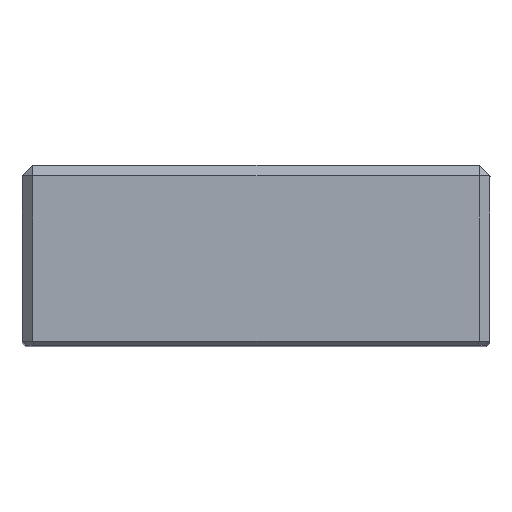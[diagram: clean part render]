
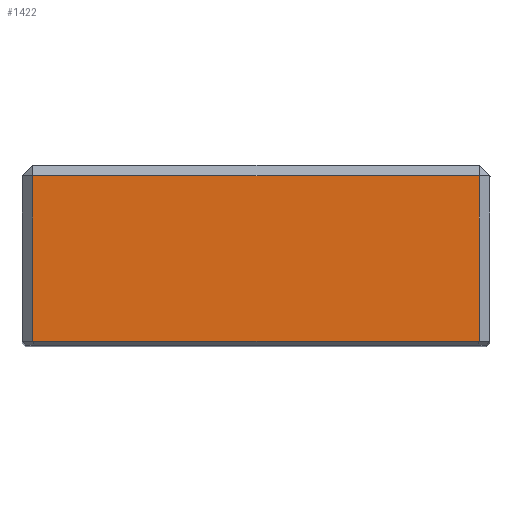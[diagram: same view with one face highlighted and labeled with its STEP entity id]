
A CAD part, top view. The second image highlights one B-rep face of the part: STEP entity #1422.
In plain terms, the highlighted planar face has unit normal (0, 0, 1).
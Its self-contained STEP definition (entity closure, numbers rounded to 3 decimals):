
#1395=AXIS2_PLACEMENT_3D('Plane Axis2P3D',#1392,#1393,#1394) ;
#605=CARTESIAN_POINT('Vertex',(-62.,-3.,0.)) ;
#608=CARTESIAN_POINT('Line Origine',(0.,-3.,0.)) ;
#612=CARTESIAN_POINT('Vertex',(62.,-3.,0.)) ;
#1392=CARTESIAN_POINT('Axis2P3D Location',(65.,0.,0.)) ;
#1397=CARTESIAN_POINT('Line Origine',(0.,-49.,0.)) ;
#1401=CARTESIAN_POINT('Vertex',(62.,-49.,0.)) ;
#1403=CARTESIAN_POINT('Vertex',(-62.,-49.,0.)) ;
#1406=CARTESIAN_POINT('Line Origine',(62.,-26.,0.)) ;
#1411=CARTESIAN_POINT('Line Origine',(-62.,-26.,0.)) ;
#609=DIRECTION('Vector Direction',(1.,0.,0.)) ;
#1393=DIRECTION('Axis2P3D Direction',(0.,0.,1.)) ;
#1394=DIRECTION('Axis2P3D XDirection',(-1.,0.,0.)) ;
#1398=DIRECTION('Vector Direction',(-1.,0.,0.)) ;
#1407=DIRECTION('Vector Direction',(0.,-1.,0.)) ;
#1412=DIRECTION('Vector Direction',(0.,1.,0.)) ;
#610=VECTOR('Line Direction',#609,1.) ;
#1399=VECTOR('Line Direction',#1398,1.) ;
#1408=VECTOR('Line Direction',#1407,1.) ;
#1413=VECTOR('Line Direction',#1412,1.) ;
#1417=ORIENTED_EDGE('',*,*,#1405,.F.) ;
#1418=ORIENTED_EDGE('',*,*,#1410,.F.) ;
#1419=ORIENTED_EDGE('',*,*,#614,.F.) ;
#1420=ORIENTED_EDGE('',*,*,#1415,.F.) ;
#1422=ADVANCED_FACE('MANIFOLD_SOLID_BREP #3309',(#1421),#1396,.T.) ;
#614=EDGE_CURVE('',#606,#613,#611,.T.) ;
#1405=EDGE_CURVE('',#1402,#1404,#1400,.T.) ;
#1410=EDGE_CURVE('',#613,#1402,#1409,.T.) ;
#1415=EDGE_CURVE('',#1404,#606,#1414,.T.) ;
#1416=EDGE_LOOP('',(#1417,#1418,#1419,#1420)) ;
#1421=FACE_OUTER_BOUND('',#1416,.T.) ;
#611=LINE('Line',#608,#610) ;
#1400=LINE('Line',#1397,#1399) ;
#1409=LINE('Line',#1406,#1408) ;
#1414=LINE('Line',#1411,#1413) ;
#1396=PLANE('Plane',#1395) ;
#606=VERTEX_POINT('',#605) ;
#613=VERTEX_POINT('',#612) ;
#1402=VERTEX_POINT('',#1401) ;
#1404=VERTEX_POINT('',#1403) ;
